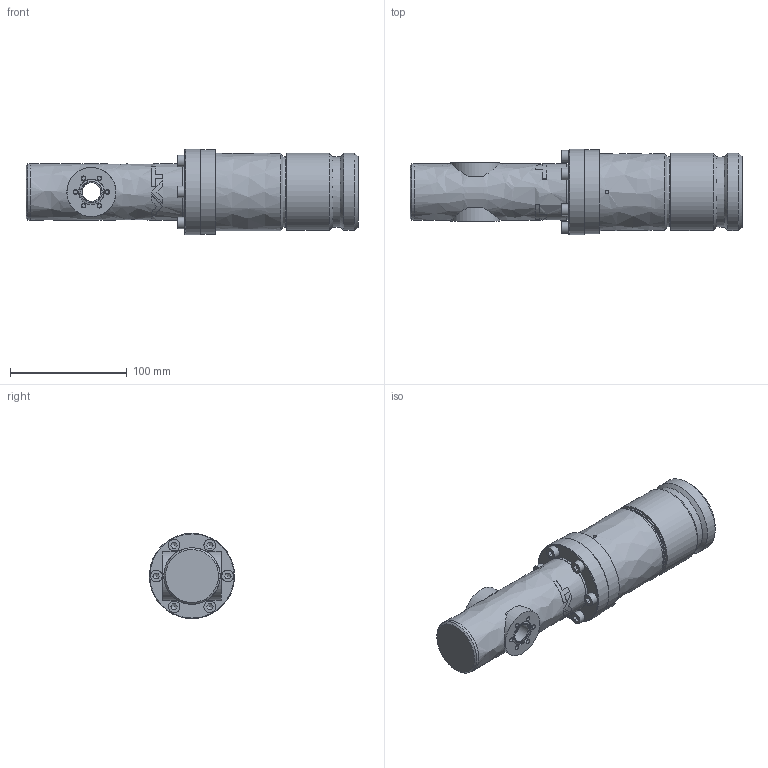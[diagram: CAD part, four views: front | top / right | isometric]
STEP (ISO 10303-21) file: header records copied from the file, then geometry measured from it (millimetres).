
FILE_DESCRIPTION((''),'2;1');
FILE_NAME('O:\MT\MT\Systeme\Cad\Datenexporte\www_vat_ch\98770.stp','2004-06-14T12:05:29',('User'),('SDRC'),'I-DEAS Master Series 9','UNIX','Yes');
FILE_SCHEMA(('CONFIG_CONTROL_DESIGN'));
Length unit declared in the file: millimetre
Assembly tree (17 placements, depth 0):
Bounding box: 284.05 x 72.82 x 73 mm (x, y, z)
Volume: 337850 mm3; surface area: 145790.7 mm2
Topology: 31 solids, 31 shells, 394 faces, 785 edges, 499 vertices
Faces by surface type: bspline 394
Entity records: 11552 total; most frequent: CARTESIAN_POINT 5936, ORIENTED_EDGE 1190, EDGE_CURVE 595, EDGE_LOOP 405, VERTEX_POINT 382, FACE_OUTER_BOUND 299, ADVANCED_FACE 299, QUASI_UNIFORM_CURVE 155
